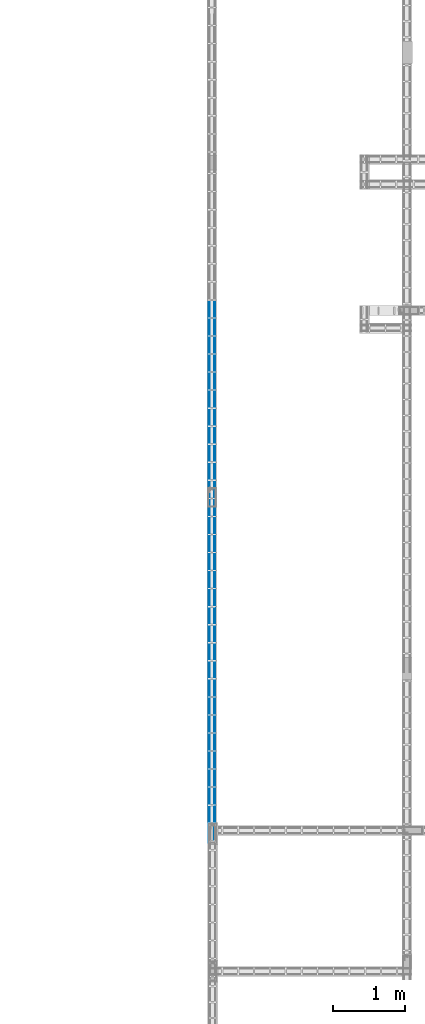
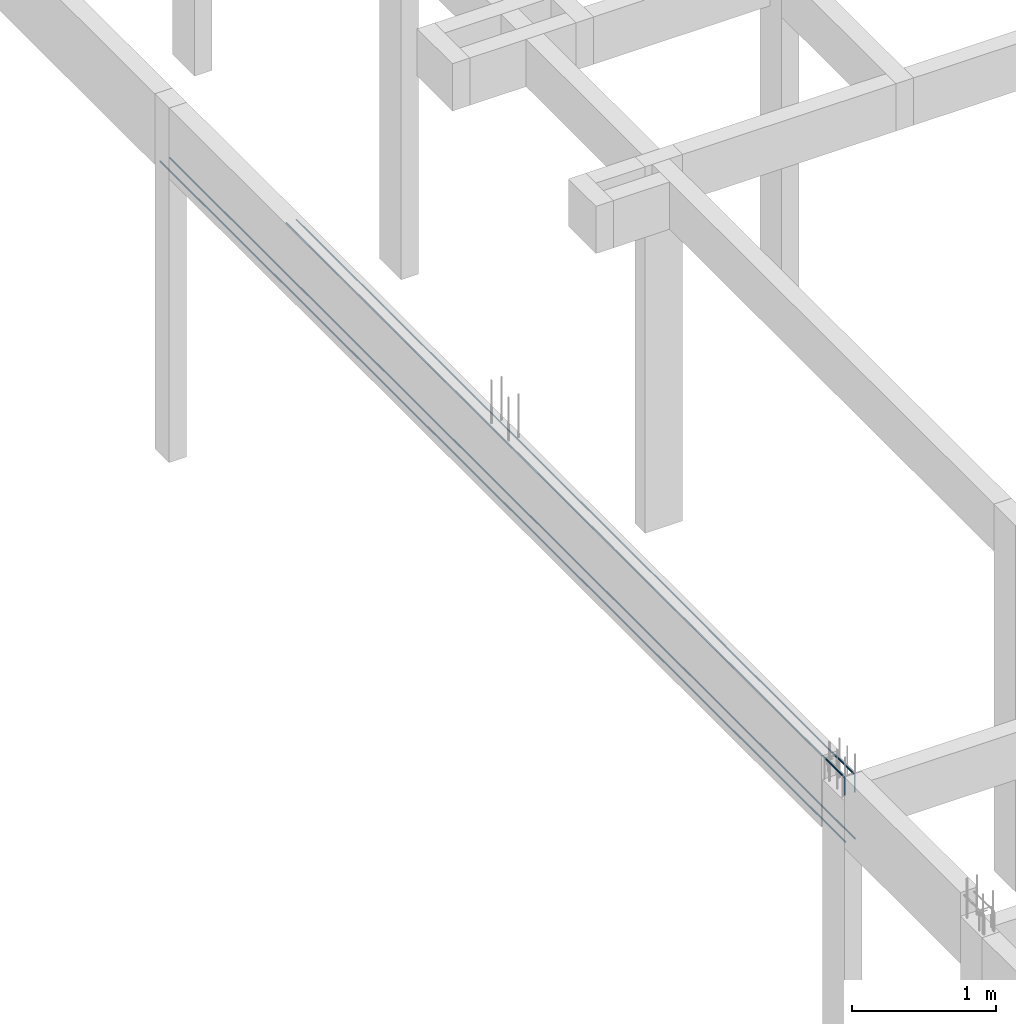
# One storey, part 51 of 236: 6 reinforcing bars.
"""IFC4 building model written with IfcOpenShell, lengths in centimetres."""

from ifc_helpers import new_model, entity, si_unit, derived_unit, frame, origin_with_axes, place, context, project, spatial, element, save


model = new_model("IFC4")

# Units and contexts
model_context = context("Model", 3, precision=1e-05, world=origin_with_axes(), identifier="Body")
ifc_project = project(units=[si_unit("LENGTHUNIT", "METRE", prefix="CENTI"), si_unit("VOLUMEUNIT", "CUBIC_METRE"), si_unit("AREAUNIT", "SQUARE_METRE"), si_unit("POWERUNIT", "WATT"), si_unit("LUMINOUSFLUXUNIT", "LUMEN"), si_unit("ELECTRICCURRENTUNIT", "AMPERE"), si_unit("PRESSUREUNIT", "PASCAL", prefix="KILO"), si_unit("MASSUNIT", "GRAM", prefix="KILO"), si_unit("PLANEANGLEUNIT", "RADIAN"), derived_unit("VOLUMETRICFLOWRATEUNIT", [(si_unit("LENGTHUNIT", "METRE"), 3), (si_unit("TIMEUNIT", "SECOND"), -1)])], contexts=[model_context])

# Site, building, storey
site_placement = place(None, frame((-4000.0, 0.0, 0.0), z_axis=(0.0, 0.0, 1.0), x_axis=(1.0, 0.0, 0.0)))
site = spatial("IfcSite", under=ifc_project, at=site_placement, Name="PADRÃO")
building_placement = place(site_placement, frame((0.0, 0.0, -14.0)))
building = spatial("IfcBuilding", under=site, at=building_placement, Name="CRECHE PRÉ-ESCOLA TIPO 2")
placement_1 = place(building_placement, origin_with_axes())
placement_2 = place(placement_1, frame((0.0, 0.0, 30.0), z_axis=(0.0, 0.0, 1.0), x_axis=(1.0, 0.0, 0.0)))
storey_placement = place(placement_2, frame((0.0, 0.0, 310.0), z_axis=(0.0, 0.0, 1.0), x_axis=(1.0, 0.0, 0.0)))
storey = spatial("IfcBuildingStorey", under=building, at=storey_placement, Name="TERREO", CompositionType="ELEMENT", Elevation=326.0)

# Reinforcing bars
for number, where, z_axis, x_axis, name in (
    (1, (2249.615, 1485.505, -36.25), (0.0, 0.0, 1.0), (1.0, 0.0, 0.0), "V289 - Longitudinal inferior"),
    (2, (2257.365, 1485.505, -36.25), (0.0, 0.0, 1.0), (1.0, 0.0, 0.0), "V289 - Longitudinal inferior"),
):
    element("IfcReinforcingBar", number, at=place(storey_placement, frame(where, z_axis=z_axis, x_axis=x_axis)), inside=storey, Name=name, BarLength=0.0, CrossSectionArea=0.000122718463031, NominalDiameter=1.25, PredefinedType="MAIN", context=model_context, shape_type="AdvancedSweptSolid", body=[
        entity("IfcSweptDiskSolid", entity("IfcCompositeCurve", [entity("IfcCompositeCurveSegment", "CONTINUOUS", True, entity("IfcPolyline", [entity("IfcCartesianPoint", [0.0, -474.995, -0.625]), entity("IfcCartesianPoint", [0.0, 474.995, -0.625])]))], False), 0.625),
    ])
for number, where, z_axis, x_axis, name in (
    (3, (2257.365, 1112.00707010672, 17.505859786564), (0.0, 0.0, 1.0), (1.0, 0.0, 0.0), "V289 - Longitudinal superior"),
    (4, (2249.615, 1112.00707010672, 17.505859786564), (0.0, 0.0, 1.0), (1.0, 0.0, 0.0), "V289 - Longitudinal superior"),
):
    element("IfcReinforcingBar", number, at=place(storey_placement, frame(where, z_axis=z_axis, x_axis=x_axis)), inside=storey, Name=name, BarLength=0.0, CrossSectionArea=0.000122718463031, NominalDiameter=1.25, PredefinedType="MAIN", context=model_context, shape_type="AdvancedSweptSolid", body=[
        entity("IfcSweptDiskSolid", entity("IfcCompositeCurve", [entity("IfcCompositeCurveSegment", "CONTINUOUS", True, entity("IfcPolyline", [entity("IfcCartesianPoint", [0.0, -100.872070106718, -15.005859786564]), entity("IfcCartesianPoint", [0.0, -100.872070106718, -0.630859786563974])])), entity("IfcCompositeCurveSegment", "CONTINUOUS", True, entity("IfcPolyline", [entity("IfcCartesianPoint", [0.0, -100.872070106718, -0.630859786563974]), entity("IfcCartesianPoint", [0.0, 101.502929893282, -0.630859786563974])]))], False), 0.625),
    ])
for number, where, z_axis, x_axis, name in (
    (5, (2249.39, 1488.005, 17.5), (0.0, 0.0, 1.0), (1.0, 0.0, 0.0), "V289 - Longitudinal superior"),
    (6, (2257.59, 1488.005, 17.5), (0.0, 0.0, 1.0), (1.0, 0.0, 0.0), "V289 - Longitudinal superior"),
):
    element("IfcReinforcingBar", number, at=place(storey_placement, frame(where, z_axis=z_axis, x_axis=x_axis)), inside=storey, Name=name, BarLength=0.0, CrossSectionArea=5.0265482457e-05, NominalDiameter=0.8, PredefinedType="MAIN", context=model_context, shape_type="AdvancedSweptSolid", body=[
        entity("IfcSweptDiskSolid", entity("IfcCompositeCurve", [entity("IfcCompositeCurveSegment", "CONTINUOUS", True, entity("IfcPolyline", [entity("IfcCartesianPoint", [0.0, -297.368577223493, -0.4]), entity("IfcCartesianPoint", [0.0, 297.368577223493, -0.4])]))], False), 0.4),
    ])

save(model, "model.ifc")
